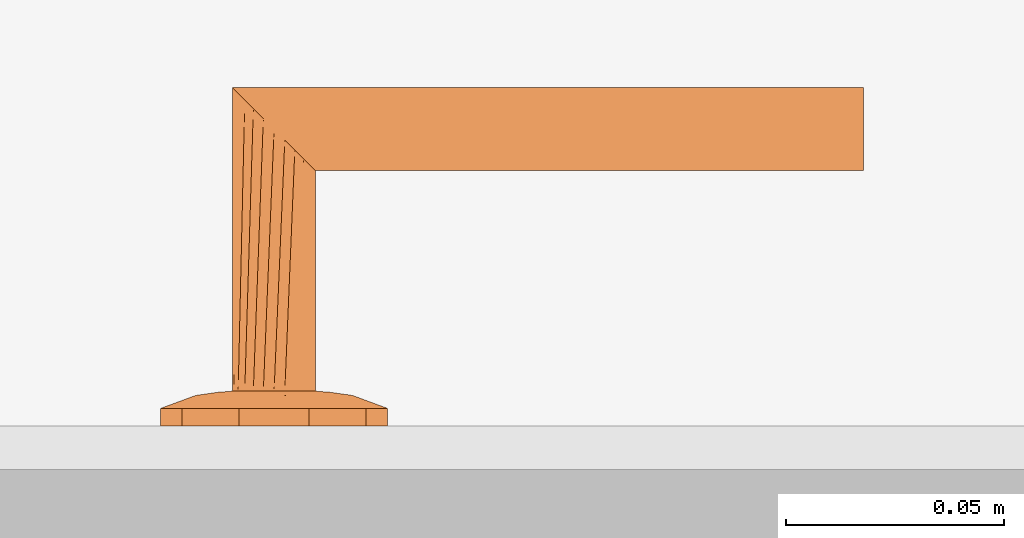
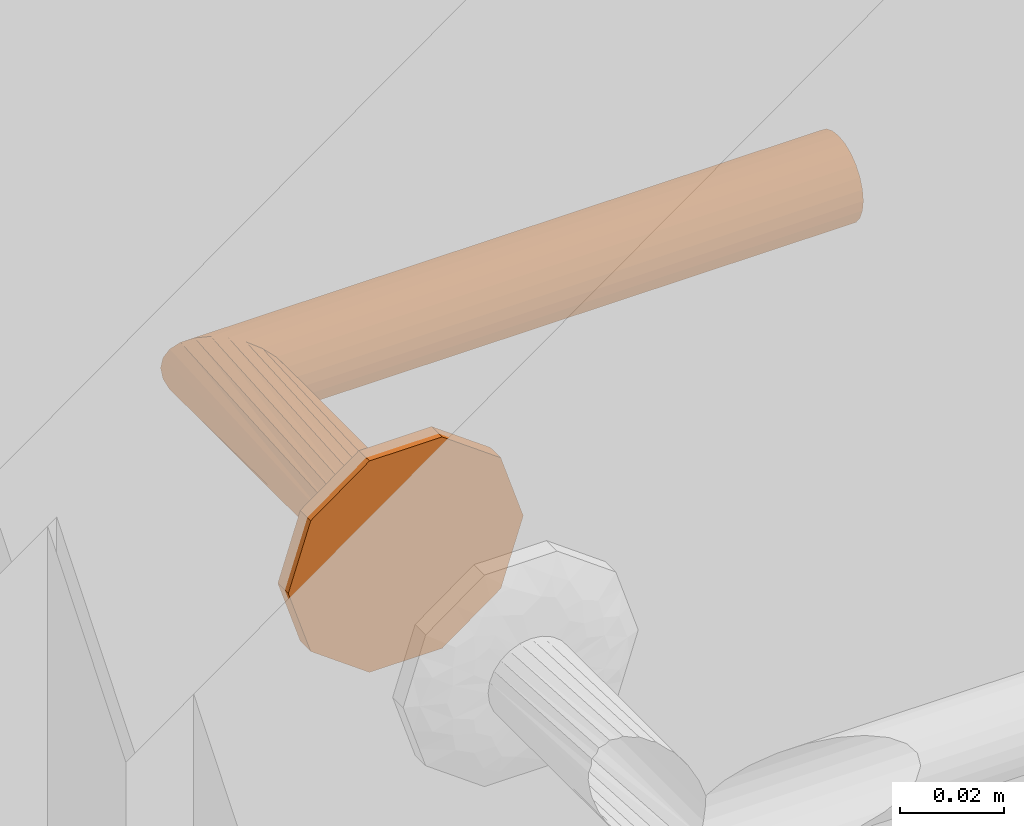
# One storey, part 42 of 55: 1 proxy.
"""IFC2X3 building model written with IfcOpenShell, lengths in millimetres."""

import ifcopenshell
import ifcopenshell.guid

model = None  # the IFC model being written
_history = None  # IfcOwnerHistory: only IFC2X3 demands one
_inside = {}  # id of a spatial element -> (the spatial element, [elements in it])
_under = {}  # id of a project, library or spatial element -> (it, [spatial elements below it])
_declared = {}  # id of a project -> (the project, [libraries it declares])
_typed = {}  # id of a type object -> (the type object, [elements of that type])
_made_of = {}  # id of a material, layer set ... -> (it, [elements and type objects made of it])


def new_model(schema):
    """Start an empty IFC model of exactly this schema.

    Asked for "IFC4X3", IfcOpenShell would pick the latest addendum, in which some entities
    have other attributes; the version numbers below select the first issue.
    IFC2X3 requires an IfcOwnerHistory on every rooted entity: one is made here for all.
    """
    global model, _history
    if schema == "IFC4X3":
        model = ifcopenshell.file(schema_version=(4, 3, 0, 0))
    else:
        model = ifcopenshell.file(schema=schema)
    _inside.clear()
    _under.clear()
    _declared.clear()
    _typed.clear()
    _made_of.clear()
    _history = None
    if model.schema == "IFC2X3":
        org = make("IfcOrganization", Name="unknown")
        user = make(
            "IfcPersonAndOrganization",
            ThePerson=make("IfcPerson", FamilyName="unknown"),
            TheOrganization=org,
        )
        app = make(
            "IfcApplication",
            ApplicationDeveloper=org,
            Version="unknown",
            ApplicationFullName="unknown",
            ApplicationIdentifier="unknown",
        )
        _history = make(
            "IfcOwnerHistory",
            OwningUser=user,
            OwningApplication=app,
            ChangeAction="ADDED",
            CreationDate=0,
        )
    return model


def make(cls, **values):
    """One entity of the class cls with the attributes given. An attribute that is None is left unset."""
    return model.create_entity(
        cls, **{name: value for name, value in values.items() if value is not None}
    )


def entity(cls, *values):
    """Any entity or typed value of the class cls, its attributes in the order of the schema. None: left unset."""
    e = model.create_entity(cls)
    for i, value in enumerate(values):
        if value is not None:
            e[i] = value
    return e


def rooted(cls, **values):
    """An entity with a GlobalId (a new one), such as an element, a storey or a relation."""
    return make(cls, GlobalId=ifcopenshell.guid.new(), OwnerHistory=_history, **values)


def si_unit(unit_type, name, prefix=None):
    """IfcSIUnit, for example si_unit("LENGTHUNIT", "METRE", prefix="MILLI")."""
    return make("IfcSIUnit", UnitType=unit_type, Prefix=prefix, Name=name)


def converted_unit(unit_type, name, factor, base, dimensions=None, offset=None):
    """IfcConversionBasedUnit, such as the inch: factor (a typed value) times the base unit."""
    return make(
        "IfcConversionBasedUnit"
        if offset is None
        else "IfcConversionBasedUnitWithOffset",
        ConversionOffset=offset,
        Dimensions=None
        if dimensions is None
        else entity("IfcDimensionalExponents", *dimensions),
        UnitType=unit_type,
        Name=name,
        ConversionFactor=make(
            "IfcMeasureWithUnit", ValueComponent=factor, UnitComponent=base
        ),
    )


def assignment(units):
    """IfcUnitAssignment: the units of a project."""
    return None if units is None else make("IfcUnitAssignment", Units=units)


def point(xyz):
    """IfcCartesianPoint."""
    return None if xyz is None else make("IfcCartesianPoint", Coordinates=xyz)


def direction(xyz):
    """IfcDirection."""
    return None if xyz is None else make("IfcDirection", DirectionRatios=xyz)


def frame(location, z_axis=None, x_axis=None):
    """IfcAxis2Placement3D, a coordinate frame: its origin and axes. An axis left out is left unset."""
    return make(
        "IfcAxis2Placement3D",
        Location=point(location),
        Axis=direction(z_axis),
        RefDirection=direction(x_axis),
    )


def origin():
    """The frame at (0, 0, 0) with its axes left unset."""
    return frame((0.0, 0.0, 0.0))


def place(relative_to, where):
    """IfcLocalPlacement: puts the frame where relative to a parent placement (None: the world)."""
    return make(
        "IfcLocalPlacement", PlacementRelTo=relative_to, RelativePlacement=where
    )


def context(
    kind, dimensions, precision=None, world=None, true_north=None, identifier=None
):
    """IfcGeometricRepresentationContext, for example the 3D "Model" context."""
    return make(
        "IfcGeometricRepresentationContext",
        ContextIdentifier=identifier,
        ContextType=kind,
        CoordinateSpaceDimension=dimensions,
        Precision=precision,
        WorldCoordinateSystem=world,
        TrueNorth=true_north,
    )


def subcontext(parent, identifier, kind, view, scale=None):
    """IfcGeometricRepresentationSubContext, for example "Body" below "Model"."""
    return make(
        "IfcGeometricRepresentationSubContext",
        ContextIdentifier=identifier,
        ContextType=kind,
        ParentContext=parent,
        TargetScale=scale,
        TargetView=view,
    )


def project(units=None, contexts=None):
    """IfcProject with its units and contexts."""
    return rooted(
        "IfcProject",
        Name="project",
        RepresentationContexts=contexts,
        UnitsInContext=assignment(units),
    )


def spatial(cls, under=None, at=None, **own):
    """A site, building, storey or space (cls), placed at a placement, below another one or the project."""
    s = rooted(cls, ObjectPlacement=at, **own)
    if under is not None:
        _under.setdefault(under.id(), (under, []))[1].append(s)
    return s


def faces_of(points, faces, orient=None, outer=None):
    """IfcFace entities. A face is a list of loops; a loop is a list of indices into points, from 0.

    orient and outer hold one flag for each loop. By default every Orientation is true, the
    first loop of a face is its IfcFaceOuterBound and the others are IfcFaceBound.
    """
    made = []
    for i, loops in enumerate(faces):
        bounds = []
        for j, loop in enumerate(loops):
            is_outer = j == 0 if outer is None else outer[i][j]
            bounds.append(
                make(
                    "IfcFaceOuterBound" if is_outer else "IfcFaceBound",
                    Bound=make("IfcPolyLoop", Polygon=[points[k] for k in loop]),
                    Orientation=True if orient is None else orient[i][j],
                )
            )
        made.append(make("IfcFace", Bounds=bounds))
    return made


def faceted_brep(points, faces, orient=None, outer=None, voids=None):
    """IfcFacetedBrep: a solid bounded by flat faces; with voids (closed shells), ...WithVoids."""
    shared = [point(p) for p in points]
    hull = make("IfcClosedShell", CfsFaces=faces_of(shared, faces, orient, outer))
    if voids is None:
        return make("IfcFacetedBrep", Outer=hull)
    return make(
        "IfcFacetedBrepWithVoids",
        Outer=hull,
        Voids=[
            make(cls, CfsFaces=faces_of(shared, fs, o, b)) for cls, fs, o, b in voids
        ],
    )


def shape(context_of_items, identifier, shape_type, items):
    """IfcShapeRepresentation: the items that make up one representation, for example the "Body"."""
    return make(
        "IfcShapeRepresentation",
        ContextOfItems=context_of_items,
        RepresentationIdentifier=identifier,
        RepresentationType=shape_type,
        Items=items,
    )


def source(mapping_origin, context_of_items, identifier, shape_type, items):
    """IfcRepresentationMap: a shape defined once, which mapped items show again and again."""
    return make(
        "IfcRepresentationMap",
        MappingOrigin=mapping_origin,
        MappedRepresentation=shape(context_of_items, identifier, shape_type, items),
    )


def transform(
    local_origin,
    x_axis=None,
    y_axis=None,
    z_axis=None,
    scale=None,
    scale2=None,
    scale3=None,
    uniform=True,
):
    """IfcCartesianTransformationOperator3D, or its non-uniform kind. x_axis, y_axis, z_axis: its Axis1, 2, 3."""
    if uniform:
        return make(
            "IfcCartesianTransformationOperator3D",
            Axis1=direction(x_axis),
            Axis2=direction(y_axis),
            LocalOrigin=point(local_origin),
            Scale=scale,
            Axis3=direction(z_axis),
        )
    return make(
        "IfcCartesianTransformationOperator3DnonUniform",
        Axis1=direction(x_axis),
        Axis2=direction(y_axis),
        LocalOrigin=point(local_origin),
        Scale=scale,
        Axis3=direction(z_axis),
        Scale2=scale2,
        Scale3=scale3,
    )


def mapped(mapping_source, mapping_target):
    """IfcMappedItem: shows the shape of a source again, moved by a transform."""
    return make(
        "IfcMappedItem", MappingSource=mapping_source, MappingTarget=mapping_target
    )


def material(Name=None, Category=None):
    """IfcMaterial."""
    return make("IfcMaterial", Name=Name, Category=Category)


def made_of(thing, what):
    """Note that an element or type object is made of a material, layer set ...; save() writes the relation."""
    if what is not None:
        _made_of.setdefault(what.id(), (what, []))[1].append(thing)
    return thing


def type_object(cls, material=None, **own):
    """A type object (cls), such as IfcWallType, which elements share."""
    return made_of(rooted(cls, **own), material)


def type_shapes(of_type, sources):
    """Give a type object the sources (RepresentationMaps) that its elements show as mapped items."""
    of_type.RepresentationMaps = sources


def element(
    cls,
    number,
    at=None,
    inside=None,
    cuts=None,
    type_object=None,
    material=None,
    context=None,
    identifier="Body",
    shape_type=None,
    held_by="IfcProductDefinitionShape",
    body=None,
    shapes=None,
    **own,
):
    """One element of the class cls, such as IfcWall. Its Tag is "e" and its number.

    at: its placement. inside: the storey or other place that contains it. cuts: it is an
    opening in that element (IfcRelVoidsElement). A single representation is given by context,
    identifier, shape_type and body (its items); several are given by shapes. held_by: the class
    of the entity that holds the representations. save() writes the other relations.
    """
    e = rooted(cls, Tag="e%d" % number, ObjectPlacement=at, **own)
    if body is not None:
        shapes = [shape(context, identifier, shape_type, body)]
    if shapes is not None:
        e.Representation = make(held_by, Representations=shapes)
    if inside is not None:
        _inside.setdefault(inside.id(), (inside, []))[1].append(e)
    if cuts is not None:
        rooted(
            "IfcRelVoidsElement", RelatingBuildingElement=cuts, RelatedOpeningElement=e
        )
    if type_object is not None:
        _typed.setdefault(type_object.id(), (type_object, []))[1].append(e)
    return made_of(e, material)


def aggregate(whole, parts):
    """IfcRelAggregates: a whole, such as a stair, and the parts it consists of."""
    return rooted("IfcRelAggregates", RelatingObject=whole, RelatedObjects=parts)


def save(model, path):
    """Write the relations noted so far, then the file.

    IfcRelAggregates (storeys below a building ...), IfcRelContainedInSpatialStructure (elements
    in a storey), IfcRelDefinesByType, IfcRelAssociatesMaterial and IfcRelDeclares: one each for
    every whole, place, type object, material and project.
    """
    for whole, parts in _under.values():
        aggregate(whole, parts)
    for where, things in _inside.values():
        rooted(
            "IfcRelContainedInSpatialStructure",
            RelatedElements=things,
            RelatingStructure=where,
        )
    for kind, things in _typed.values():
        rooted("IfcRelDefinesByType", RelatedObjects=things, RelatingType=kind)
    for what, things in _made_of.values():
        rooted("IfcRelAssociatesMaterial", RelatedObjects=things, RelatingMaterial=what)
    for by, libraries in _declared.values():
        rooted("IfcRelDeclares", RelatingContext=by, RelatedDefinitions=libraries)
    model.write(path)


model = new_model("IFC2X3")

# Units and contexts
model_context = context("Model", 3, precision=0.01, world=origin(), true_north=direction((6.123233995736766e-17, 1.0)))
plan_context = context("Plan", 3, precision=0.01, world=origin(), true_north=direction((6.123233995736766e-17, 1.0)))
body_context = subcontext(model_context, "Body", "Model", "MODEL_VIEW")
ifc_project = project(units=[si_unit("LENGTHUNIT", "METRE", prefix="MILLI"), converted_unit("PLANEANGLEUNIT", "DEGREE", entity("IfcPlaneAngleMeasure", 0.017453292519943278), si_unit("PLANEANGLEUNIT", "RADIAN"), dimensions=[0, 0, 0, 0, 0, 0, 0]), si_unit("AREAUNIT", "SQUARE_METRE")], contexts=[model_context, plan_context])

# Site, building, storey, space
site_placement = place(None, origin())
site = spatial("IfcSite", under=ifc_project, at=site_placement, Name="Default", CompositionType="ELEMENT")
building_placement = place(site_placement, origin())
building = spatial("IfcBuilding", under=site, at=building_placement, CompositionType="ELEMENT")
storey_placement = place(building_placement, origin())
storey = spatial("IfcBuildingStorey", under=building, at=storey_placement, Name="1K", CompositionType="ELEMENT", Elevation=0.0)
space_placement = place(storey_placement, origin())
space = spatial("IfcSpace", under=storey, at=space_placement, Name="1-0.5", CompositionType="ELEMENT", InteriorOrExteriorSpace="INTERNAL")

# Proxy
ifc_material = material(Name="<Unnamed>")
building_element_proxy_type = type_object("IfcBuildingElementProxyType", Name="Door-handle_Lever_ABLOY_INOXI_3-19ss-002_RT:Default", PredefinedType="NOTDEFINED", material=ifc_material)
shared_shape = source(origin(), body_context, "Body", "Brep", [
    faceted_brep([(0.0, 0.0, 0.0), (21.034441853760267, -15.282416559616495, 0.0), (14.534441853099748, -20.00494299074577, 0.0), (8.034441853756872, -24.72746942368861, 0.0), (0.0, -24.72746942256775, 0.0), (23.51722092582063, -7.6412082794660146, 0.0), (26.0, 0.0, 0.0), (-8.034441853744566, -24.727469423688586, 0.0), (-14.534441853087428, -20.00494299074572, 0.0), (-21.03444185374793, -15.282416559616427, 0.0), (-23.517220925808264, -7.641208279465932, 0.0), (-26.0, 0.0, 0.0), (-23.517220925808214, 7.641208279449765, 0.0), (23.517220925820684, 7.641208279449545, 0.0), (21.034441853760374, 15.282416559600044, 0.0), (14.53444185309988, 20.00494299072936, 0.0), (8.034441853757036, 24.72746942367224, 0.0), (-21.034441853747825, 15.282416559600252, 0.0), (-14.53444185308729, 20.004942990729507, 0.0), (-8.0344418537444, 24.72746942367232, 0.0), (0.0, 24.72746942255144, 0.0), (0.0, 0.0, 8.0), (4.7500000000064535, -8.227241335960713, 8.0), (5.937500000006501, -6.170431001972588, 8.0), (7.125000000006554, -4.113620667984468, 8.0), (8.312500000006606, -2.0568103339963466, 8.0), (9.500000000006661, 0.0, 8.0), (8.312500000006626, 2.056810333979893, 8.0), (2.3750000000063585, -8.227241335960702, 8.0), (0.0, -8.227241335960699, 8.0), (-2.3749999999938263, -8.227241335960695, 8.0), (-4.749999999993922, -8.227241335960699, 8.0), (-5.937499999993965, -6.170431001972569, 8.0), (-7.124999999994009, -4.113620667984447, 8.0), (-8.312499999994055, -2.056810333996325, 8.0), (-9.499999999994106, 0.0, 8.0), (7.125000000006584, 4.113620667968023, 8.0), (5.937500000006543, 6.170431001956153, 8.0), (4.750000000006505, 8.227241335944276, 8.0), (2.3750000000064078, 8.22724133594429, 8.0), (-8.31249999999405, 2.0568103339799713, 8.0), (-7.12499999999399, 4.113620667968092, 8.0), (-5.9374999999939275, 6.170431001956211, 8.0), (-4.74999999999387, 8.227241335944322, 8.0), (0.0, 8.227241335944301, 8.0), (-2.374999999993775, 8.227241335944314, 8.0), (-22.488765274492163, -10.806469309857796, 4.030771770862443), (-16.663919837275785, -7.932665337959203, 6.877259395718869), (-20.643071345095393, -6.292822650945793, 5.929480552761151), (-12.50457926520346, -5.179566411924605, 7.774932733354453), (-16.764060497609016, -3.820257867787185, 7.1747985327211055), (-9.071726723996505, -10.311606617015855, 7.7520782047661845), (-11.963426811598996, -8.625290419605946, 7.618343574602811), (-11.979136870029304, -13.678312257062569, 6.945778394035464), (5.7585542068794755, -20.96753300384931, 5.871476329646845), (0.0, -24.72746942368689, 4.030771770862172), (8.03444185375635, -24.727469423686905, 4.030771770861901), (16.66391982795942, -7.932665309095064, 6.877259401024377), (22.488765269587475, -10.806469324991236, 4.03077177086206), (20.64307133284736, -6.29282258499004, 5.929480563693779), (14.534441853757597, -20.004942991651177, 4.030771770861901), (9.499431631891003, -18.64368355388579, 6.154325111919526), (-15.783149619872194, -11.991003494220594, 6.50080018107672), (-21.034441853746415, -15.282416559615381, 4.030771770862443), (-14.53444185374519, -20.00494299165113, 4.030771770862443), (-23.012042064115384, 0.0, 5.135401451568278), (-23.943088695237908, -6.330522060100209, 4.030771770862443), (11.96342678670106, -8.62529049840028, 7.618343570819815), (12.504579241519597, -5.179566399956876, 7.774932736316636), (16.764060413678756, -3.8202578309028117, 7.17479855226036), (15.783149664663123, -11.991003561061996, 6.50080015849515), (17.985351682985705, 0.0, 6.993737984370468), (23.012042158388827, 0.0, 5.135401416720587), (8.661516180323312, -10.478936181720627, 7.768126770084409), (-8.03444185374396, -24.727469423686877, 4.030771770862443), (-3.3573143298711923, -21.197247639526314, 5.971427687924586), (-9.941915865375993, -17.061976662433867, 6.522757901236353), (-5.973257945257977, -16.430139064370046, 7.110979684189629), (-7.711266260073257, -12.760344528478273, 7.594456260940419), (11.979136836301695, -13.678312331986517, 6.945778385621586), (7.511307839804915, -13.358932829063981, 7.529187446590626), (5.953298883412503, -16.50608604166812, 7.096344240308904), (-1.5654593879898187, -15.307443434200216, 7.519134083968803), (-7.784980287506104, -20.476295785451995, 5.812837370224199), (2.8135289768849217, -17.76392260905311, 6.993737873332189), (-17.98535168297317, 0.0, 6.993737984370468), (-26.0, 0.0, 4.030771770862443), (-23.51722092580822, -7.641208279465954, 4.030771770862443), (23.943088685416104, -6.33052209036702, 4.030771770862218), (24.308823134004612, -5.204907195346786, 4.030771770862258), (26.0, 0.0, 4.030771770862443), (21.03444185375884, -15.282416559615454, 4.030771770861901), (22.617646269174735, -10.40981439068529, 4.030771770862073), (22.488765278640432, 10.806469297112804, 4.030771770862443), (16.66391984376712, 7.932665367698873, 6.877259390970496), (20.643071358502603, 6.292822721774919, 5.929480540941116), (12.504579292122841, 5.179566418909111, 7.774932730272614), (16.764060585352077, 3.8202579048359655, 7.174798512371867), (9.07172672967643, 10.31160659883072, 7.752078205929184), (11.963426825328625, 8.62529034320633, 7.618343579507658), (11.979136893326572, 13.67831220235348, 6.9457784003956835), (-5.758554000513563, 20.96753314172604, 5.8714763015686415), (0.0, 24.72746942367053, 4.030771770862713), (-8.03444185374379, 24.72746942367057, 4.030771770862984), (-16.663919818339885, 7.932665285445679, 6.877259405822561), (-22.48876526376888, 10.806469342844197, 4.030771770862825), (-20.643071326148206, 6.2928225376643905, 5.929480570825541), (-14.534441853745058, 20.004942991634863, 4.030771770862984), (-9.499431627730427, 18.643683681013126, 6.154325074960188), (15.783149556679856, 11.991003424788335, 6.5008002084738), (21.03444185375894, 15.282416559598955, 4.030771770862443), (14.534441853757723, 20.004942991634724, 4.030771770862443), (23.943088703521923, 6.330522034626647, 4.030771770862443), (-11.96342675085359, 8.625290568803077, 7.618343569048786), (-12.504579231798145, 5.179566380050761, 7.77493273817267), (-16.764060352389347, 3.820257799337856, 7.174798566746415), (-15.78314967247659, 11.991003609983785, 6.500800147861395), (-8.661516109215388, 10.478936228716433, 7.768126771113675), (8.034441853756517, 24.727469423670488, 4.030771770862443), (3.3573144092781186, 21.197247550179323, 5.971427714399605), (9.941915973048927, 17.061976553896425, 6.522757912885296), (5.9732581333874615, 16.430139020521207, 7.110979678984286), (7.711266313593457, 12.760344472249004, 7.5944562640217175), (-11.979136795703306, 13.678312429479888, 6.945778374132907), (-7.511307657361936, 13.358932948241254, 7.5291874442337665), (-5.9532988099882, 16.50608628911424, 7.096344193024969), (1.5654596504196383, 15.3074431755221, 7.519134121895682), (7.784980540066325, 20.476295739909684, 5.812837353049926), (-2.81352881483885, 17.76392263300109, 6.993737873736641), (23.51722092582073, 7.6412082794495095, 4.030771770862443), (-23.94308867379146, 6.330522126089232, 4.030771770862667), (-24.308823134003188, 5.20490719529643, 4.030771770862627), (-21.034441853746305, 15.282416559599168, 4.030771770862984), (-22.617646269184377, 10.409814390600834, 4.0307717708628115)], [[[0, 1, 2]], [[0, 2, 3]], [[0, 3, 4]], [[0, 5, 1]], [[0, 6, 5]], [[0, 4, 7]], [[0, 7, 8]], [[0, 8, 9]], [[0, 9, 10]], [[0, 10, 11]], [[0, 11, 12]], [[0, 13, 6]], [[0, 14, 13]], [[0, 15, 14]], [[0, 16, 15]], [[0, 12, 17]], [[0, 17, 18]], [[0, 18, 19]], [[0, 19, 20]], [[0, 20, 16]], [[21, 22, 23]], [[21, 23, 24]], [[21, 24, 25]], [[21, 25, 26]], [[21, 26, 27]], [[21, 28, 22]], [[21, 29, 28]], [[21, 30, 29]], [[21, 31, 30]], [[21, 32, 31]], [[21, 33, 32]], [[21, 34, 33]], [[21, 35, 34]], [[21, 27, 36]], [[21, 36, 37]], [[21, 37, 38]], [[21, 38, 39]], [[21, 40, 35]], [[21, 41, 40]], [[21, 42, 41]], [[21, 43, 42]], [[21, 39, 44]], [[21, 44, 45]], [[21, 45, 43]], [[46, 47, 48]], [[47, 49, 50]], [[49, 33, 34]], [[51, 52, 53]], [[49, 52, 33]], [[48, 47, 50]], [[54, 55, 56]], [[57, 58, 59]], [[56, 60, 61]], [[62, 63, 64]], [[65, 66, 48]], [[67, 57, 68]], [[68, 69, 25]], [[57, 67, 70]], [[69, 26, 25]], [[62, 53, 52]], [[71, 69, 72]], [[67, 23, 73]], [[74, 55, 75]], [[76, 77, 78]], [[79, 60, 70]], [[69, 59, 72]], [[80, 81, 61]], [[77, 30, 78]], [[82, 30, 77]], [[28, 80, 22]], [[77, 83, 75]], [[75, 82, 77]], [[55, 84, 75]], [[85, 50, 35]], [[24, 68, 25]], [[82, 84, 29]], [[84, 82, 75]], [[31, 78, 30]], [[82, 29, 30]], [[34, 35, 50]], [[52, 49, 47]], [[62, 52, 47]], [[34, 50, 49]], [[53, 78, 51]], [[32, 33, 52]], [[85, 65, 50]], [[66, 65, 86]], [[67, 68, 24]], [[77, 76, 83]], [[65, 48, 50]], [[63, 62, 46]], [[48, 66, 87, 46]], [[62, 47, 46]], [[69, 68, 57]], [[80, 73, 22]], [[70, 67, 79]], [[67, 24, 23]], [[72, 88, 89, 90]], [[69, 71, 26]], [[59, 69, 57]], [[61, 60, 79]], [[62, 64, 53]], [[91, 58, 70]], [[72, 59, 88]], [[57, 70, 58]], [[59, 58, 92]], [[80, 61, 79]], [[91, 70, 60]], [[61, 81, 54]], [[73, 80, 79]], [[28, 84, 81]], [[67, 73, 79]], [[29, 84, 28]], [[22, 73, 23]], [[51, 31, 32]], [[76, 78, 53]], [[53, 64, 76]], [[83, 64, 74]], [[64, 83, 76]], [[75, 83, 74]], [[31, 51, 78]], [[52, 51, 32]], [[28, 81, 80]], [[54, 81, 84]], [[55, 54, 84]], [[61, 54, 56]], [[93, 94, 95]], [[94, 96, 97]], [[96, 36, 27]], [[98, 99, 100]], [[96, 99, 36]], [[95, 94, 97]], [[101, 102, 103]], [[104, 105, 106]], [[103, 107, 108]], [[109, 110, 111]], [[72, 112, 95]], [[113, 104, 114]], [[114, 115, 40]], [[104, 113, 116]], [[115, 35, 40]], [[109, 100, 99]], [[85, 115, 65]], [[113, 42, 117]], [[118, 102, 119]], [[120, 121, 122]], [[123, 107, 116]], [[115, 106, 65]], [[124, 125, 108]], [[121, 39, 122]], [[126, 39, 121]], [[45, 124, 43]], [[121, 127, 119]], [[119, 126, 121]], [[102, 128, 119]], [[71, 97, 26]], [[41, 114, 40]], [[126, 128, 44]], [[128, 126, 119]], [[38, 122, 39]], [[126, 44, 39]], [[27, 26, 97]], [[99, 96, 94]], [[109, 99, 94]], [[27, 97, 96]], [[100, 122, 98]], [[37, 36, 99]], [[71, 72, 97]], [[112, 72, 90]], [[113, 114, 41]], [[121, 120, 127]], [[72, 95, 97]], [[110, 109, 93]], [[95, 112, 129, 93]], [[109, 94, 93]], [[115, 114, 104]], [[124, 117, 43]], [[116, 113, 123]], [[113, 41, 42]], [[65, 130, 131, 86]], [[115, 85, 35]], [[106, 115, 104]], [[108, 107, 123]], [[109, 111, 100]], [[132, 105, 116]], [[65, 106, 130]], [[104, 116, 105]], [[106, 105, 133]], [[124, 108, 123]], [[132, 116, 107]], [[108, 125, 101]], [[117, 124, 123]], [[45, 128, 125]], [[113, 117, 123]], [[44, 128, 45]], [[43, 117, 42]], [[98, 38, 37]], [[120, 122, 100]], [[100, 111, 120]], [[127, 111, 118]], [[111, 127, 120]], [[119, 127, 118]], [[38, 98, 122]], [[99, 98, 37]], [[45, 125, 124]], [[101, 125, 128]], [[102, 101, 128]], [[108, 101, 103]], [[7, 74, 64, 63, 9, 8]], [[10, 9, 63, 46, 87, 66, 86, 11]], [[6, 90, 89, 88, 92, 1, 5]], [[1, 58, 91]], [[74, 7, 4, 3, 56, 55]], [[60, 56, 3, 2, 1, 91]], [[1, 92, 58]], [[14, 110, 93, 129, 112, 90, 6, 13]], [[111, 110, 14, 15, 16, 118]], [[11, 86, 131, 130, 133, 17, 12]], [[17, 105, 132]], [[118, 16, 20, 19, 103, 102]], [[107, 103, 19, 18, 17, 132]], [[17, 133, 105]], [[59, 92, 88]], [[106, 133, 130]]]),
    faceted_brep([(4.7499999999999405, -8.22724133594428, 8.0), (2.4587809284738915, -9.176295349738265, 8.0), (0.0, -9.499999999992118, 8.0), (-2.4587809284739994, -9.176295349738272, 8.0), (-4.7500000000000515, -8.227241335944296, 8.0), (-6.717514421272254, -6.717514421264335, 8.0), (-8.227241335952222, -4.74999999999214, 8.0), (-9.176295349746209, -2.4587809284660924, 8.0), (-9.500000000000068, 0.0, 8.0), (-9.176295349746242, 2.458780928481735, 8.0), (-8.227241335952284, 4.750000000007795, 8.0), (-6.717514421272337, 6.717514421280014, 8.0), (-4.750000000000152, 8.227241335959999, 8.0), (-2.4587809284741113, 9.176295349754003, 8.0), (0.0, 9.500000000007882, 8.0), (2.4587809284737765, 9.176295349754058, 8.0), (4.7499999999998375, 8.227241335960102, 8.0), (6.717514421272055, 6.717514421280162, 8.0), (8.22724133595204, 4.75000000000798, 8.0), (9.17629534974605, 2.458780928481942, 8.0), (9.499999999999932, 0.0, 8.0), (9.17629534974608, -2.458780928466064, 8.0), (8.227241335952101, -4.749999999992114, 8.0), (6.717514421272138, -6.7175144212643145, 8.0), (-8.227241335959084, 4.7499999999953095, 59.772758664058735), (-6.717514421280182, 6.7175144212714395, 61.282485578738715), (-9.176295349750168, 2.458780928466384, 58.82370465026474), (-4.750000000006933, 8.227241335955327, 63.25000000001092), (-2.4587809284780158, 9.176295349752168, 65.54121907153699), (-9.500000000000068, 0.0, 58.50000000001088), (0.0, 9.50000000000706, 68.0), (4.750000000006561, 8.227241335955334, 72.75000000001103), (2.4587809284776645, 9.17629534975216, 70.45878092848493), (6.717514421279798, 6.7175144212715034, 74.71751442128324), (8.22724133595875, 4.749999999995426, 76.22724133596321), (9.17629534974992, 2.458780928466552, 77.17629534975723), (9.499999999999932, 0.0, 77.50000000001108), (9.176295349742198, -2.4587809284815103, 77.1762953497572), (8.227241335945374, -4.750000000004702, 76.22724133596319), (6.7175144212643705, -6.717514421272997, 74.7175144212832), (4.749999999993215, -8.227241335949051, 72.75000000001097), (2.4587809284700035, -9.17629534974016, 70.45878092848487), (0.0, -9.49999999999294, 68.0), (-2.4587809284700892, -9.176295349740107, 65.54121907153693), (-4.749999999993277, -8.227241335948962, 63.250000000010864), (-6.717514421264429, -6.717514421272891, 61.282485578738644), (-9.176295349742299, -2.458780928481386, 58.8237046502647), (-8.227241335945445, -4.750000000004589, 59.77275866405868), (-135.0, -9.176295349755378, 70.4587809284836), (-135.0, -8.227241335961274, 72.75000000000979), (-135.0, -6.717514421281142, 74.71751442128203), (-135.0, -4.750000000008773, 76.22724133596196), (-135.0, -2.4587809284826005, 77.17629534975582), (-135.0, 0.0, 77.5000000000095), (-135.0, 2.4587809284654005, 77.17629534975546), (-135.0, 4.749999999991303, 76.22724133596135), (-135.0, 6.717514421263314, 74.71751442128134), (-135.0, 8.227241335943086, 72.75000000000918), (-135.0, 9.17629534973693, 70.45878092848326), (-135.0, 9.499999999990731, 68.0), (-135.0, 9.17629534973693, 65.54121907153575), (-135.0, 8.227241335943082, 63.250000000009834), (-135.0, 6.717514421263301, 61.28248557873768), (-135.0, 4.749999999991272, 59.772758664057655), (-135.0, 2.458780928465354, 58.823704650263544), (-135.0, 0.0, 58.50000000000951), (-135.0, -2.458780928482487, 58.82370465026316), (-135.0, -4.750000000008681, 59.772758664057), (-135.0, -6.7175144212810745, 61.28248557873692), (-135.0, -8.227241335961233, 63.25000000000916), (-135.0, -9.176295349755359, 65.54121907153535), (-135.0, -9.500000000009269, 68.0)], [[[0, 1, 2, 3, 4, 5, 6, 7, 8, 9, 10, 11, 12, 13, 14, 15, 16, 17, 18, 19, 20, 21, 22, 23]], [[24, 25, 11, 10]], [[26, 24, 10, 9]], [[14, 27, 28]], [[13, 27, 14]], [[25, 27, 13]], [[29, 26, 9, 8]], [[12, 11, 25]], [[25, 13, 12]], [[28, 30, 15]], [[31, 17, 32]], [[33, 18, 31]], [[19, 34, 35]], [[33, 34, 19]], [[20, 19, 35, 36]], [[16, 15, 30]], [[14, 28, 15]], [[19, 18, 33]], [[17, 31, 18]], [[17, 16, 32]], [[30, 32, 16]], [[20, 36, 37, 21]], [[38, 21, 37]], [[22, 39, 40]], [[38, 39, 21]], [[23, 40, 41]], [[39, 22, 21]], [[1, 42, 43]], [[42, 1, 0]], [[23, 41, 0]], [[23, 22, 40]], [[41, 42, 0]], [[44, 45, 3]], [[43, 44, 2]], [[46, 29, 8, 7]], [[47, 46, 7, 6]], [[45, 47, 6, 5]], [[45, 4, 3]], [[3, 2, 44]], [[5, 4, 45]], [[43, 2, 1]], [[48, 49, 50, 51, 52, 53, 54, 55, 56, 57, 58, 59, 60, 61, 62, 63, 64, 65, 66, 67, 68, 69, 70, 71]], [[64, 63, 24, 26]], [[65, 64, 26, 29]], [[61, 60, 28, 27]], [[62, 61, 27, 25]], [[63, 62, 25, 24]], [[59, 30, 28, 60]], [[57, 56, 33, 31]], [[58, 57, 31, 32]], [[54, 53, 36, 35]], [[55, 54, 35, 34]], [[56, 55, 34, 33]], [[32, 30, 59, 58]], [[52, 51, 38, 37]], [[53, 52, 37, 36]], [[49, 48, 41, 40]], [[50, 49, 40, 39]], [[51, 50, 39, 38]], [[42, 41, 48, 71]], [[69, 68, 45, 44]], [[70, 69, 44, 43]], [[66, 65, 29, 46]], [[67, 66, 46, 47]], [[68, 67, 47, 45]], [[42, 71, 70, 43]]]),
])
type_shapes(building_element_proxy_type, [shared_shape])
proxy_placement = place(space_placement, frame((13550.0, 3109.999959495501, 1000.0), z_axis=(0.0, 1.0, 0.0), x_axis=(-1.0, 0.0, 0.0)))
element("IfcBuildingElementProxy", 1, at=proxy_placement, inside=space, type_object=building_element_proxy_type, material=ifc_material, Name="Door-handle_Lever_ABLOY_INOXI_3-19ss-002_RT:Default", ObjectType="Door-handle_Lever_ABLOY_INOXI_3-19ss-002_RT:Default", context=body_context, shape_type="MappedRepresentation", body=[
    mapped(shared_shape, transform((0.0, 0.0, 0.0), scale=1.0)),
])

save(model, "model.ifc")
